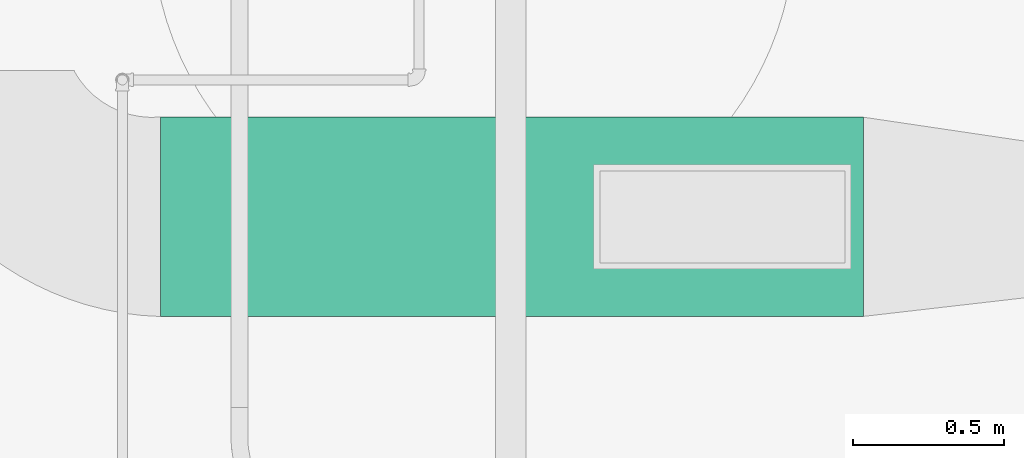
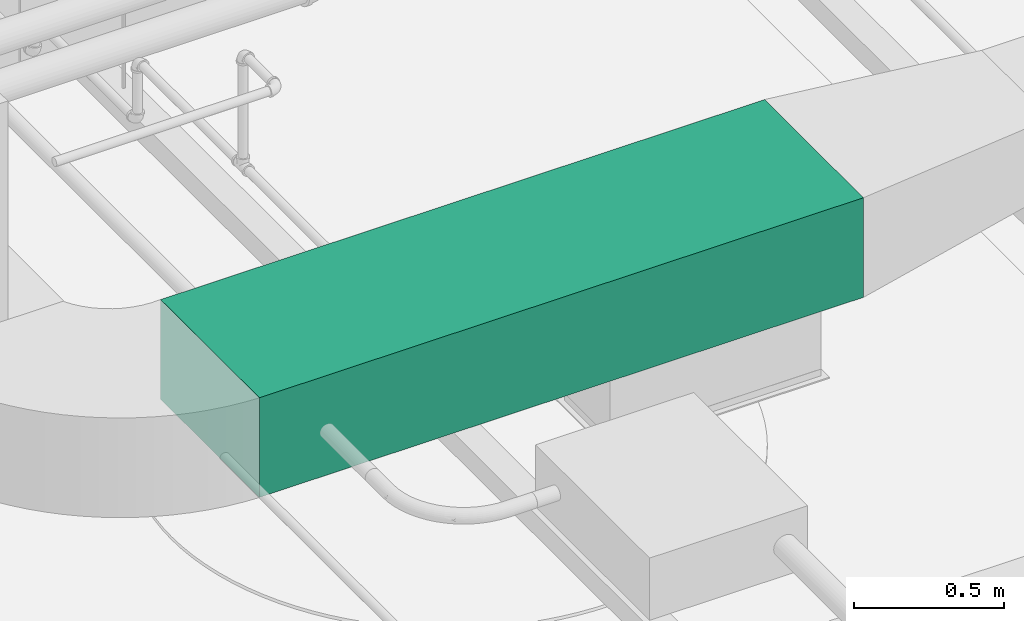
# One storey, part 29 of 108: 1 duct segment.
"""IFC4 building model written with IfcOpenShell, lengths in feet."""

from ifc_helpers import new_model, entity, si_unit, converted_unit, derived_unit, direction, frame, frame_2d, origin, place, context, subcontext, project, spatial, rectangle, extrude, type_object, element, save


model = new_model("IFC4")

# Units and contexts
model_context = context("Model", 3, precision=0.0001, world=origin(), true_north=direction((6.12303176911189e-17, 1.0)))
body_context = subcontext(model_context, "Body", "Model", "MODEL_VIEW")
ifc_project = project(units=[converted_unit("LENGTHUNIT", "FOOT", entity("IfcRatioMeasure", 0.3048), si_unit("LENGTHUNIT", "METRE"), dimensions=[1, 0, 0, 0, 0, 0, 0]), converted_unit("AREAUNIT", "SQUARE FOOT", entity("IfcRatioMeasure", 0.09290304), si_unit("AREAUNIT", "SQUARE_METRE"), dimensions=[2, 0, 0, 0, 0, 0, 0]), converted_unit("VOLUMEUNIT", "CUBIC FOOT", entity("IfcRatioMeasure", 0.028316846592), si_unit("VOLUMEUNIT", "CUBIC_METRE"), dimensions=[3, 0, 0, 0, 0, 0, 0]), converted_unit("PLANEANGLEUNIT", "DEGREE", entity("IfcRatioMeasure", 0.0174532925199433), si_unit("PLANEANGLEUNIT", "RADIAN"), dimensions=[0, 0, 0, 0, 0, 0, 0]), si_unit("MASSUNIT", "GRAM", prefix="KILO"), derived_unit("MASSDENSITYUNIT", [(si_unit("MASSUNIT", "GRAM", prefix="KILO"), 1), (si_unit("LENGTHUNIT", "METRE"), -3)]), si_unit("TIMEUNIT", "SECOND"), si_unit("FREQUENCYUNIT", "HERTZ"), si_unit("THERMODYNAMICTEMPERATUREUNIT", "DEGREE_CELSIUS"), derived_unit("THERMALTRANSMITTANCEUNIT", [(si_unit("MASSUNIT", "GRAM", prefix="KILO"), 1), (si_unit("THERMODYNAMICTEMPERATUREUNIT", "KELVIN"), -1), (si_unit("TIMEUNIT", "SECOND"), -3)]), derived_unit("VOLUMETRICFLOWRATEUNIT", [(si_unit("LENGTHUNIT", "METRE"), 3), (si_unit("TIMEUNIT", "SECOND"), -1)]), si_unit("ELECTRICCURRENTUNIT", "AMPERE"), si_unit("ELECTRICVOLTAGEUNIT", "VOLT"), si_unit("POWERUNIT", "WATT"), si_unit("FORCEUNIT", "NEWTON"), si_unit("ILLUMINANCEUNIT", "LUX"), si_unit("LUMINOUSFLUXUNIT", "LUMEN"), si_unit("LUMINOUSINTENSITYUNIT", "CANDELA"), derived_unit("USERDEFINED", [(si_unit("MASSUNIT", "GRAM", prefix="KILO"), -1), (si_unit("LENGTHUNIT", "METRE"), -2), (si_unit("TIMEUNIT", "SECOND"), 3), (si_unit("LUMINOUSFLUXUNIT", "LUMEN"), 1)]), derived_unit("LINEARVELOCITYUNIT", [(si_unit("LENGTHUNIT", "METRE"), 1), (si_unit("TIMEUNIT", "SECOND"), -1)]), si_unit("PRESSUREUNIT", "PASCAL"), derived_unit("USERDEFINED", [(si_unit("LENGTHUNIT", "METRE"), -2), (si_unit("MASSUNIT", "GRAM", prefix="KILO"), 1), (si_unit("TIMEUNIT", "SECOND"), -2)])], contexts=[model_context])

# Site, building, storey
site_placement = place(None, origin())
site = spatial("IfcSite", under=ifc_project, at=site_placement, Name="Default", CompositionType="ELEMENT")
building_placement = place(site_placement, origin())
building = spatial("IfcBuilding", under=site, at=building_placement, CompositionType="ELEMENT")
storey_placement = place(building_placement, frame((0.0, 0.0, 168.0)))
storey = spatial("IfcBuildingStorey", under=building, at=storey_placement, Name="Level 15", CompositionType="ELEMENT", Elevation=168.0)

# Duct segment
duct_segment_type = type_object("IfcDuctSegmentType", Name="Rectangular Duct:Square Throat Elbows / S&D", PredefinedType="NOTDEFINED")
duct_segment_placement = place(storey_placement, frame((-36.3194229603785, -4.77495961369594, 9.58333333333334)))
element("IfcDuctSegment", 1, at=duct_segment_placement, inside=storey, type_object=duct_segment_type, Name="Rectangular Duct:Square Throat Elbows / S&D", ObjectType="Rectangular Duct:Square Throat Elbows / S&D", PredefinedType="NOTDEFINED", context=body_context, shape_type="SweptSolid", body=[
    extrude(rectangle(XDim=7.64583333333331, YDim=2.16666666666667, at=frame_2d((1.77635683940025e-15, 0.0), x_axis=(1.0, 0.0))), frame((3.82291666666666, 1.08333333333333, 0.0), z_axis=(0.0, 0.0, 1.0), x_axis=(-1.0, 0.0, 0.0)), (0.0, 0.0, 1.0), 1.33333333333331),
])

save(model, "model.ifc")
